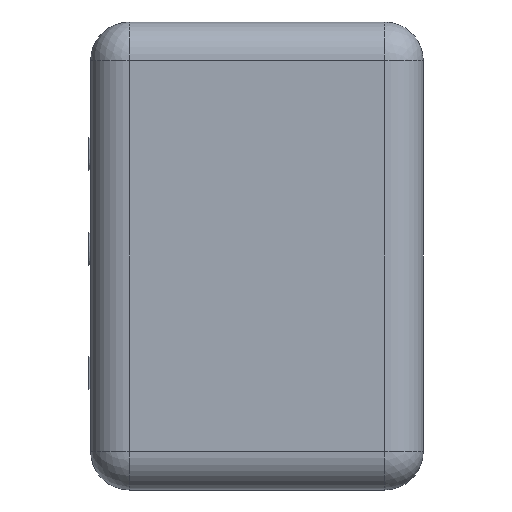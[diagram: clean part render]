
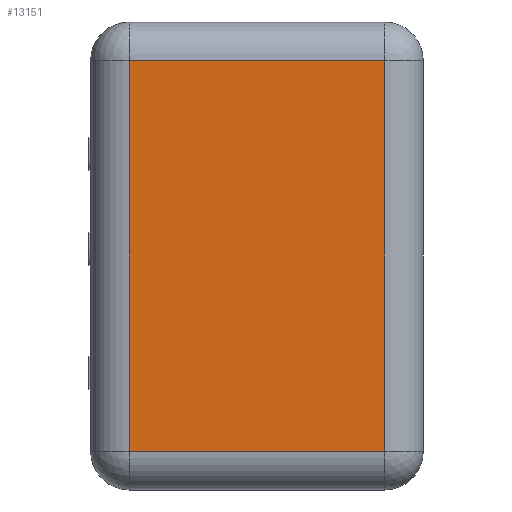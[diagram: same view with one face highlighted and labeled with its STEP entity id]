
A CAD part, left-side view. The second image highlights one B-rep face of the part: STEP entity #13151.
In plain terms, the highlighted planar face has unit normal (-1, 0, 0).
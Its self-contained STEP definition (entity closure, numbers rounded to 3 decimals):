
#131=DIRECTION('',(0.,0.,-1.));
#132=VECTOR('',#131,1.01);
#133=CARTESIAN_POINT('',(-1.,0.33,0.505));
#134=LINE('',#133,#132);
#135=DIRECTION('',(0.,1.,0.));
#136=VECTOR('',#135,0.66);
#137=CARTESIAN_POINT('',(-1.,-0.33,0.505));
#138=LINE('',#137,#136);
#139=DIRECTION('',(0.,0.,1.));
#140=VECTOR('',#139,1.01);
#141=CARTESIAN_POINT('',(-1.,-0.33,-0.505));
#142=LINE('',#141,#140);
#143=DIRECTION('',(0.,-1.,0.));
#144=VECTOR('',#143,0.66);
#145=CARTESIAN_POINT('',(-1.,0.33,-0.505));
#146=LINE('',#145,#144);
#9733=CARTESIAN_POINT('',(-1.,0.33,0.505));
#9734=CARTESIAN_POINT('',(-1.,0.33,-0.505));
#9735=VERTEX_POINT('',#9733);
#9736=VERTEX_POINT('',#9734);
#9745=CARTESIAN_POINT('',(-1.,-0.33,0.505));
#9746=VERTEX_POINT('',#9745);
#9755=CARTESIAN_POINT('',(-1.,-0.33,-0.505));
#9756=VERTEX_POINT('',#9755);
#13140=CARTESIAN_POINT('',(-1.,-0.425,-0.6));
#13141=DIRECTION('',(-1.,0.,0.));
#13142=DIRECTION('',(0.,0.,1.));
#13143=AXIS2_PLACEMENT_3D('',#13140,#13141,#13142);
#13144=PLANE('',#13143);
#13145=ORIENTED_EDGE('',*,*,#13011,.F.);
#13146=ORIENTED_EDGE('',*,*,#13040,.F.);
#13147=ORIENTED_EDGE('',*,*,#13107,.F.);
#13148=ORIENTED_EDGE('',*,*,#13131,.F.);
#13149=EDGE_LOOP('',(#13145,#13146,#13147,#13148));
#13150=FACE_OUTER_BOUND('',#13149,.F.);
#13151=ADVANCED_FACE('',(#13150),#13144,.T.);
#13011=EDGE_CURVE('',#9735,#9736,#134,.T.);
#13040=EDGE_CURVE('',#9746,#9735,#138,.T.);
#13107=EDGE_CURVE('',#9756,#9746,#142,.T.);
#13131=EDGE_CURVE('',#9736,#9756,#146,.T.);
